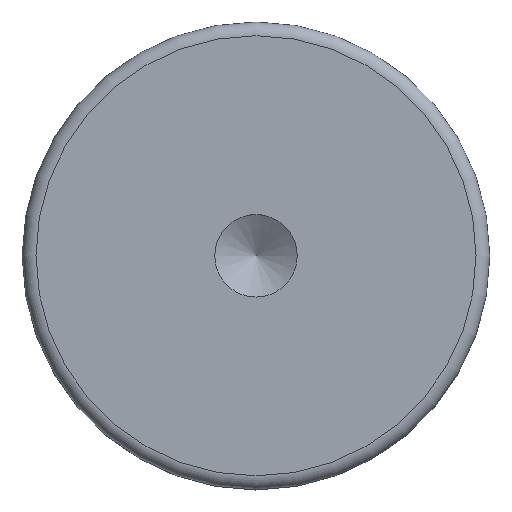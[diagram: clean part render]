
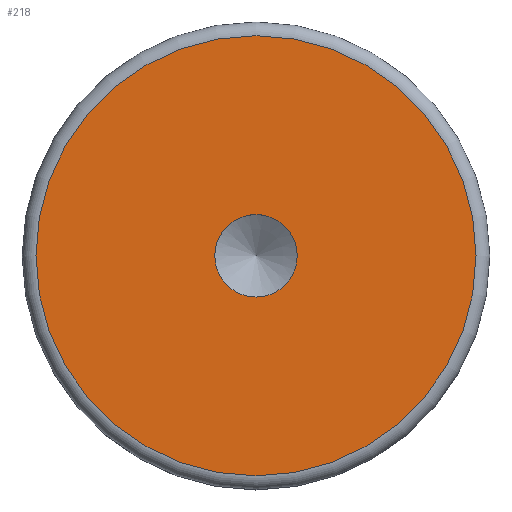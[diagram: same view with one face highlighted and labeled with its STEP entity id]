
A CAD part, top view. The second image highlights one B-rep face of the part: STEP entity #218.
In plain terms, the highlighted planar face has unit normal (0, 0, 1).
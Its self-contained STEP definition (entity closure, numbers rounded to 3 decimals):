
#22=FACE_BOUND('',#59,.T.);
#28=PLANE('',#260);
#40=FACE_OUTER_BOUND('',#58,.T.);
#58=EDGE_LOOP('',(#170));
#59=EDGE_LOOP('',(#171));
#91=CIRCLE('',#255,8.);
#95=CIRCLE('',#261,1.5);
#111=VERTEX_POINT('',#379);
#114=VERTEX_POINT('',#389);
#131=EDGE_CURVE('',#111,#111,#91,.T.);
#136=EDGE_CURVE('',#114,#114,#95,.T.);
#170=ORIENTED_EDGE('',*,*,#131,.F.);
#171=ORIENTED_EDGE('',*,*,#136,.T.);
#218=ADVANCED_FACE('',(#40,#22),#28,.T.);
#255=AXIS2_PLACEMENT_3D('',#380,#304,#305);
#260=AXIS2_PLACEMENT_3D('',#388,#315,#316);
#261=AXIS2_PLACEMENT_3D('',#390,#317,#318);
#304=DIRECTION('center_axis',(0.,0.,-1.));
#305=DIRECTION('ref_axis',(1.,0.,0.));
#315=DIRECTION('center_axis',(0.,0.,1.));
#316=DIRECTION('ref_axis',(1.,0.,0.));
#317=DIRECTION('center_axis',(0.,0.,-1.));
#318=DIRECTION('ref_axis',(1.,0.,0.));
#379=CARTESIAN_POINT('',(-8.,0.,8.6));
#380=CARTESIAN_POINT('Origin',(0.,0.,8.6));
#388=CARTESIAN_POINT('Origin',(0.,0.,8.6));
#389=CARTESIAN_POINT('',(-1.5,0.,8.6));
#390=CARTESIAN_POINT('Origin',(0.,0.,8.6));
